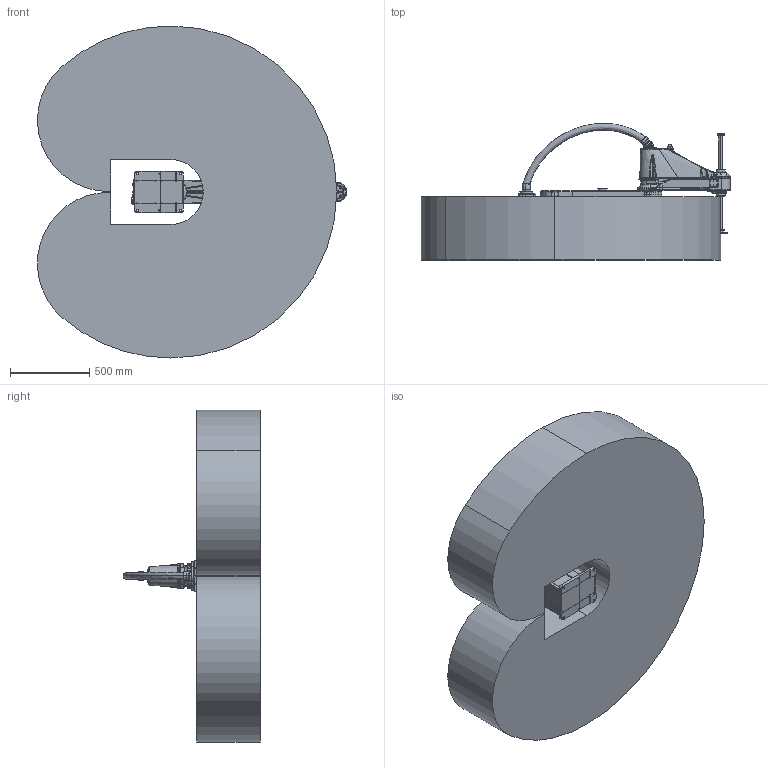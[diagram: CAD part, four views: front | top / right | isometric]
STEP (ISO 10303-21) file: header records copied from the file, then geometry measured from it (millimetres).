
FILE_DESCRIPTION (( 'STEP AP203' ), '1' );
FILE_NAME ('AH20-1050-0204-4000-V1.0.0.STEP', '2022-06-02T07:43:40', ( '' ), ( '' ), 'SwSTEP 2.0', 'SolidWorks 2017', '' );
FILE_SCHEMA (( 'CONFIG_CONTROL_DESIGN' ));
Products named in the file (7): AH20-1050-0204-4000-T1-V1.0.0; AH20-1050-0204-4000-T2-V1.0.0; AH20-1050-0204-4000-T3-V1.0.0; AH20-1050-0204-4000-T4-V1.0.0; AH20-1050-0204-4000-T5-V1.0.0; AH20-1050-0204-4000-T6-V1.0.0; AH20-1050-0204-4000-V1.0.0
Assembly tree (6 placements, depth 2):
  AH20-1050-0204-4000-V1.0.0
    AH20-1050-0204-4000-T1-V1.0.0
    AH20-1050-0204-4000-T2-V1.0.0
    AH20-1050-0204-4000-T3-V1.0.0
    AH20-1050-0204-4000-T4-V1.0.0
    AH20-1050-0204-4000-T5-V1.0.0
    AH20-1050-0204-4000-T6-V1.0.0
Bounding box: 1955.79 x 867.41 x 2100 mm (x, y, z)
Volume: 1206364886.4 mm3; surface area: 11648652.3 mm2
Topology: 13 solids, 91 shells, 6685 faces, 17376 edges, 11073 vertices
Faces by surface type: plane 2679, cylinder 1594, bspline 1116, cone 871, torus 342, sphere 83
Entity records: 305968 total; most frequent: CARTESIAN_POINT 150791, ORIENTED_EDGE 33667, DIRECTION 29204, EDGE_CURVE 17190, VERTEX_POINT 11051, AXIS2_PLACEMENT_3D 10480, LINE 8244, VECTOR 8244
